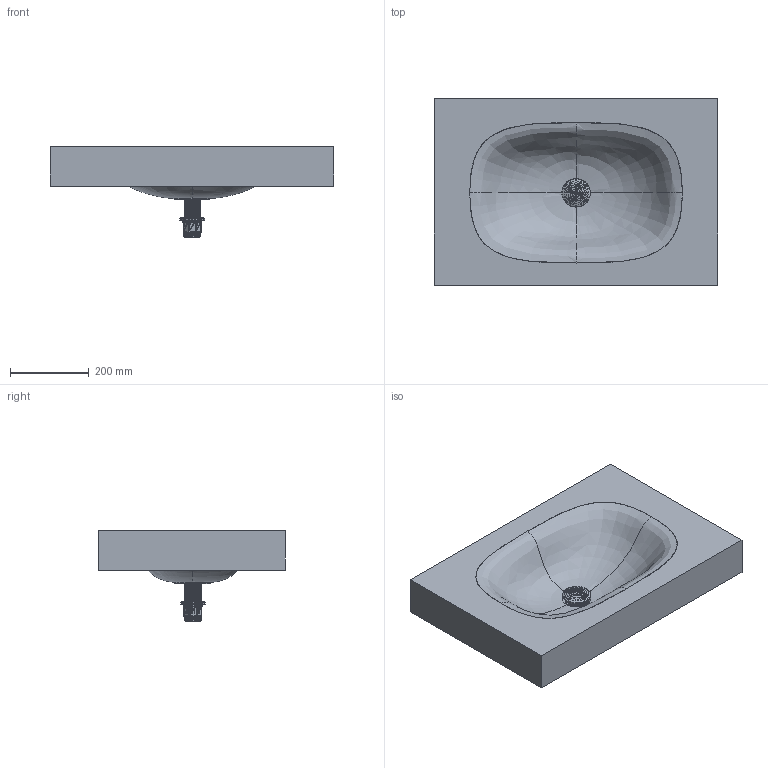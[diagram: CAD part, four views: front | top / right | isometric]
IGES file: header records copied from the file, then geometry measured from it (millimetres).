
Start section: Data from Parasolid IGES Translator 19.0.9, Copyright(c) 2006 Siemens PL M Software. All Rights Reserved.
Global section: file name: noorth-top-H 12 D 47,3 W 72_4200.igs; native system: By Siemens PLM Incorporated; preprocessor: XPlus GENERIC/IGES 19.0.9; author: Noname; organization: Noname; date: 20210914.114058; units: metre
Bounding box: 720 x 473 x 230.13 mm (x, y, z)
Volume: 3778274.7 mm3; surface area: 1179031.9 mm2
Topology: 1 solids, 1 shells, 11711 faces, 35253 edges, 35197 vertices
Faces by surface type: extrusion 11619, bspline 35, cylinder 28, plane 26, revolution 3
